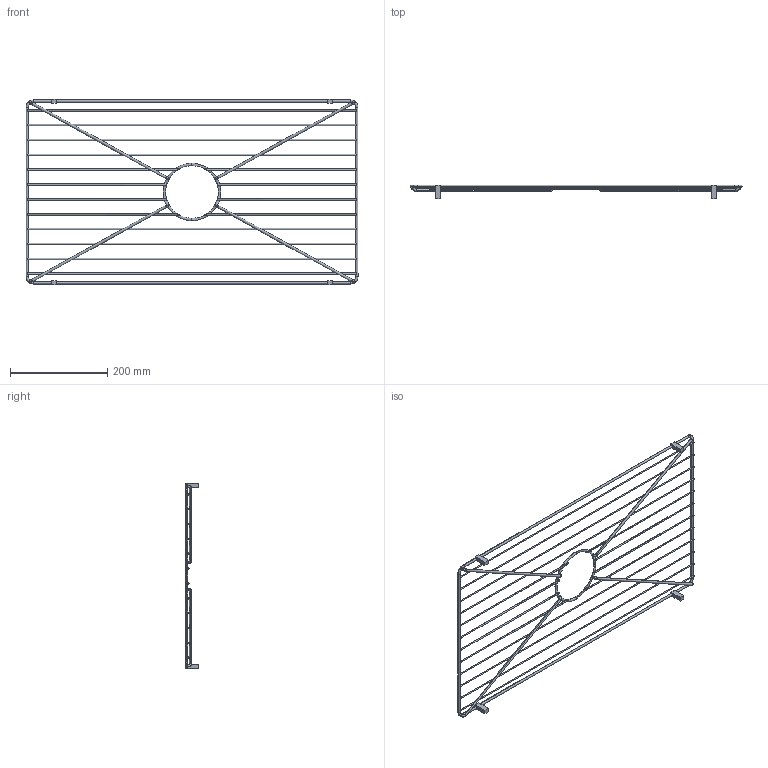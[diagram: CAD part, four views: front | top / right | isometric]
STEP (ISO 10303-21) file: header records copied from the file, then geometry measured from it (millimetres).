
FILE_DESCRIPTION (( 'STEP AP214' ), '1' );
FILE_NAME ('KG30.STEP', '2020-10-28T05:22:58', ( '' ), ( '' ), 'SwSTEP 2.0', 'SolidWorks 2020', '' );
FILE_SCHEMA (( 'AUTOMOTIVE_DESIGN' ));
Length unit declared in the file: millimetre
Products named in the file (1): KG30
Bounding box: 682 x 27.5 x 382 mm (x, y, z)
Volume: 138416.2 mm3; surface area: 138057.2 mm2
Topology: 5 solids, 5 shells, 184 faces, 548 edges, 372 vertices
Faces by surface type: cylinder 96, plane 52, torus 36
Entity records: 10390 total; most frequent: CARTESIAN_POINT 3221, ORIENTED_EDGE 1096, DIRECTION 1014, EDGE_CURVE 548, AXIS2_PLACEMENT_3D 433, VERTEX_POINT 372, EDGE_LOOP 264, CIRCLE 248
